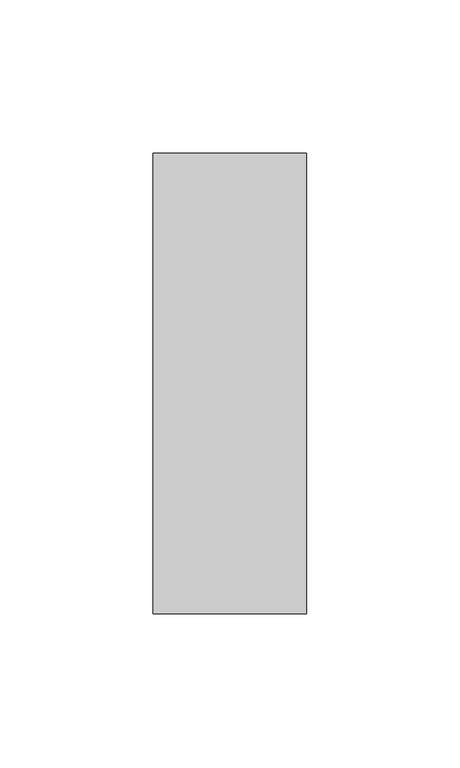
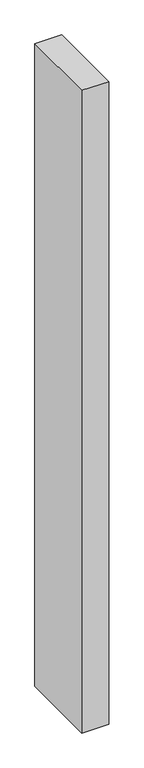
"""IFC4 building model written with IfcOpenShell, lengths in millimetres: member geometry, Прямоугольный импост : 50 x 150 мм."""

from ifc_helpers import new_model, si_unit, frame, origin, place, context, project, spatial, polyline, outline, extrude, source, transform, mapped, element, save


def member_e9c8c90b(model_context):
    return source(origin(), model_context, "Body", "SweptSolid", [
        extrude(outline(polyline([(25.0, 75.0), (25.0, -75.0), (-25.0, -75.0), (-25.0, 75.0), (25.0, 75.0)])), frame((0.0, 0.0, -1254.558015), z_axis=(0.0, 0.0, 1.0), x_axis=(1.0, 0.0, 0.0)), (0.0, 0.0, 1.0), 1254.558015),
    ])


if __name__ == "__main__":
    model = new_model("IFC4")
    model_context = context("Model", 3, world=origin())
    ifc_project = project(units=[si_unit("LENGTHUNIT", "METRE", prefix="MILLI")], contexts=[model_context])
    site = spatial("IfcSite", under=ifc_project)
    building = spatial("IfcBuilding", under=site)
    placement = place(None, origin())
    member_shape = member_e9c8c90b(model_context)
    element("IfcMember", 1, ObjectType="Прямоугольный импост : 50 x 150 мм", at=placement, inside=building, context=model_context, shape_type="MappedRepresentation", body=[
        mapped(member_shape, transform((0.0, 0.0, 0.0), x_axis=(1.0, 0.0, 0.0), y_axis=(0.0, 1.0, 0.0), z_axis=(0.0, 0.0, 1.0))),
    ])
    save(model, "model.ifc")
